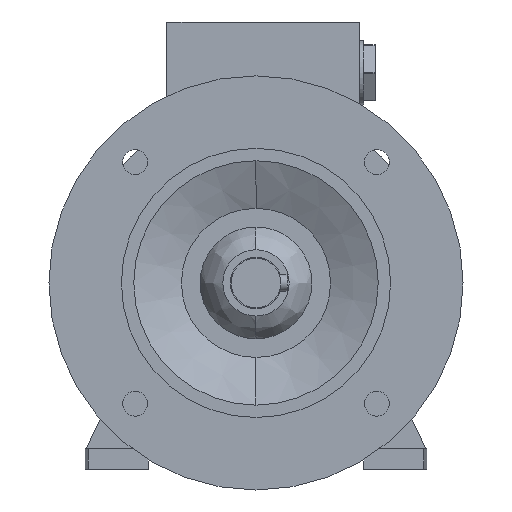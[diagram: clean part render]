
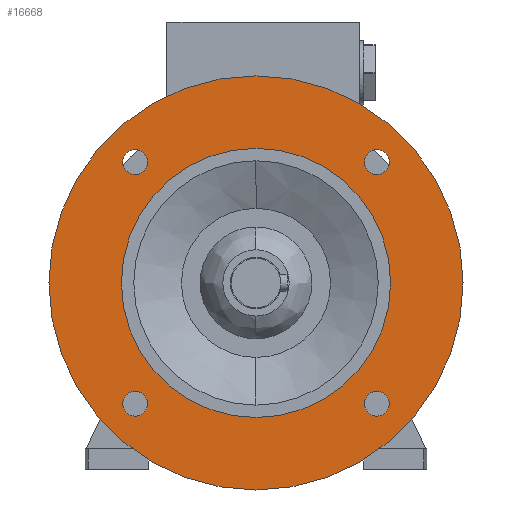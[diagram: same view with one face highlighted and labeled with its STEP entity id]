
A CAD part, left-side view. The second image highlights one B-rep face of the part: STEP entity #16668.
In plain terms, the highlighted planar face has unit normal (-1, 0, 0).
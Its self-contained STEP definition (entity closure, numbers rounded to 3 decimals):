
#398 = EDGE_CURVE ( 'NONE', #19156, #19166, #14001, .T. ) ;
#399 = EDGE_CURVE ( 'NONE', #19159, #19144, #14002, .T. ) ;
#621 = AXIS2_PLACEMENT_3D ( 'NONE', #1017, #1018, #1019 ) ;
#622 = AXIS2_PLACEMENT_3D ( 'NONE', #1021, #1022, #1023 ) ;
#699 = AXIS2_PLACEMENT_3D ( 'NONE', #4910, #4911, #4912 ) ;
#700 = AXIS2_PLACEMENT_3D ( 'NONE', #4916, #4917, #4918 ) ;
#707 = AXIS2_PLACEMENT_3D ( 'NONE', #4951, #4952, #4953 ) ;
#713 = AXIS2_PLACEMENT_3D ( 'NONE', #4982, #4983, #4984 ) ;
#719 = AXIS2_PLACEMENT_3D ( 'NONE', #5015, #5016, #5017 ) ;
#766 = AXIS2_PLACEMENT_3D ( 'NONE', #23514, #23516, #23517 ) ;
#767 = AXIS2_PLACEMENT_3D ( 'NONE', #23525, #23527, #23529 ) ;
#768 = AXIS2_PLACEMENT_3D ( 'NONE', #23533, #23534, #23537 ) ;
#769 = AXIS2_PLACEMENT_3D ( 'NONE', #23562, #23564, #23566 ) ;
#1017 = CARTESIAN_POINT ( 'NONE',  ( -34.5, 58.336, -58.336 ) ) ;
#1018 = DIRECTION ( 'NONE',  ( 1., 0., 0. ) ) ;
#1019 = DIRECTION ( 'NONE',  ( 0., 0., -1. ) ) ;
#1021 = CARTESIAN_POINT ( 'NONE',  ( -34.5, -58.336, -58.336 ) ) ;
#1022 = DIRECTION ( 'NONE',  ( 1., 0., 0. ) ) ;
#1023 = DIRECTION ( 'NONE',  ( 0., 0., -1. ) ) ;
#1077 = EDGE_CURVE ( 'NONE', #19160, #19162, #14518, .T. ) ;
#1079 = EDGE_CURVE ( 'NONE', #19163, #19148, #14520, .T. ) ;
#1093 = EDGE_CURVE ( 'NONE', #19167, #19147, #14541, .T. ) ;
#1105 = EDGE_CURVE ( 'NONE', #19166, #19156, #14561, .T. ) ;
#1119 = EDGE_CURVE ( 'NONE', #19144, #19159, #14580, .T. ) ;
#2842 = CARTESIAN_POINT ( 'NONE',  ( -34.5, -58.336, -52.336 ) ) ;
#2866 = CARTESIAN_POINT ( 'NONE',  ( -34.5, 58.336, 52.336 ) ) ;
#2867 = CARTESIAN_POINT ( 'NONE',  ( -34.5, -58.336, 52.336 ) ) ;
#2868 = CARTESIAN_POINT ( 'NONE',  ( -34.5, 0., 65. ) ) ;
#2874 = CARTESIAN_POINT ( 'NONE',  ( -34.5, 0., -65. ) ) ;
#2875 = CARTESIAN_POINT ( 'NONE',  ( -34.5, 58.336, -64.336 ) ) ;
#2878 = CARTESIAN_POINT ( 'NONE',  ( -34.5, -58.336, -64.336 ) ) ;
#2879 = CARTESIAN_POINT ( 'NONE',  ( -34.5, 0., -100. ) ) ;
#2881 = CARTESIAN_POINT ( 'NONE',  ( -34.5, 0., 100. ) ) ;
#2882 = CARTESIAN_POINT ( 'NONE',  ( -34.5, -58.336, 64.336 ) ) ;
#2885 = CARTESIAN_POINT ( 'NONE',  ( -34.5, 58.336, -52.336 ) ) ;
#2886 = CARTESIAN_POINT ( 'NONE',  ( -34.5, 58.336, 64.336 ) ) ;
#3772 = CIRCLE ( 'NONE', #767, 6. ) ;
#3774 = CIRCLE ( 'NONE', #768, 100. ) ;
#3775 = CIRCLE ( 'NONE', #766, 6. ) ;
#3783 = CIRCLE ( 'NONE', #769, 65. ) ;
#4910 = CARTESIAN_POINT ( 'NONE',  ( -34.5, 0., 0. ) ) ;
#4911 = DIRECTION ( 'NONE',  ( 1., 0., 0. ) ) ;
#4912 = DIRECTION ( 'NONE',  ( 0., 0., 1. ) ) ;
#4916 = CARTESIAN_POINT ( 'NONE',  ( -34.5, -58.336, 58.336 ) ) ;
#4917 = DIRECTION ( 'NONE',  ( 1., 0., 0. ) ) ;
#4918 = DIRECTION ( 'NONE',  ( 0., 0., -1. ) ) ;
#4951 = CARTESIAN_POINT ( 'NONE',  ( -34.5, 58.336, 58.336 ) ) ;
#4952 = DIRECTION ( 'NONE',  ( 1., 0., 0. ) ) ;
#4953 = DIRECTION ( 'NONE',  ( 0., 0., -1. ) ) ;
#4982 = CARTESIAN_POINT ( 'NONE',  ( -34.5, 58.336, -58.336 ) ) ;
#4983 = DIRECTION ( 'NONE',  ( 1., 0., 0. ) ) ;
#4984 = DIRECTION ( 'NONE',  ( 0., 0., -1. ) ) ;
#5015 = CARTESIAN_POINT ( 'NONE',  ( -34.5, -58.336, -58.336 ) ) ;
#5016 = DIRECTION ( 'NONE',  ( 1., 0., 0. ) ) ;
#5017 = DIRECTION ( 'NONE',  ( 0., 0., -1. ) ) ;
#6189 = EDGE_CURVE ( 'NONE', #19147, #19167, #3775, .T. ) ;
#6190 = EDGE_CURVE ( 'NONE', #19148, #19163, #3772, .T. ) ;
#6191 = EDGE_CURVE ( 'NONE', #19162, #19160, #3774, .T. ) ;
#6196 = EDGE_CURVE ( 'NONE', #19149, #19155, #3783, .T. ) ;
#7092 = DIRECTION ( 'NONE',  ( -1., 0., 0. ) ) ;
#7094 = PLANE ( 'NONE',  #16786 ) ;
#7096 = CARTESIAN_POINT ( 'NONE',  ( -34.5, 82.5, 0. ) ) ;
#7097 = DIRECTION ( 'NONE',  ( 0., 0., 1. ) ) ;
#11593 = CIRCLE ( 'NONE', #12271, 65. ) ;
#12271 = AXIS2_PLACEMENT_3D ( 'NONE', #13003, #13004, #13005 ) ;
#13003 = CARTESIAN_POINT ( 'NONE',  ( -34.5, 0., 0. ) ) ;
#13004 = DIRECTION ( 'NONE',  ( 1., 0., 0. ) ) ;
#13005 = DIRECTION ( 'NONE',  ( 0., 0., 1. ) ) ;
#14001 = CIRCLE ( 'NONE', #621, 6. ) ;
#14002 = CIRCLE ( 'NONE', #622, 6. ) ;
#14518 = CIRCLE ( 'NONE', #699, 100. ) ;
#14520 = CIRCLE ( 'NONE', #700, 6. ) ;
#14541 = CIRCLE ( 'NONE', #707, 6. ) ;
#14561 = CIRCLE ( 'NONE', #713, 6. ) ;
#14580 = CIRCLE ( 'NONE', #719, 6. ) ;
#14944 = EDGE_CURVE ( 'NONE', #19155, #19149, #11593, .T. ) ;
#16668 = ADVANCED_FACE ( 'NONE', ( #20628, #20641, #20633, #20638, #20639, #20642 ), #7094, .T. ) ;
#16786 = AXIS2_PLACEMENT_3D ( 'NONE', #7096, #7092, #7097 ) ;
#19144 = VERTEX_POINT ( 'NONE', #2842 ) ;
#19147 = VERTEX_POINT ( 'NONE', #2866 ) ;
#19148 = VERTEX_POINT ( 'NONE', #2867 ) ;
#19149 = VERTEX_POINT ( 'NONE', #2868 ) ;
#19155 = VERTEX_POINT ( 'NONE', #2874 ) ;
#19156 = VERTEX_POINT ( 'NONE', #2875 ) ;
#19159 = VERTEX_POINT ( 'NONE', #2878 ) ;
#19160 = VERTEX_POINT ( 'NONE', #2879 ) ;
#19162 = VERTEX_POINT ( 'NONE', #2881 ) ;
#19163 = VERTEX_POINT ( 'NONE', #2882 ) ;
#19166 = VERTEX_POINT ( 'NONE', #2885 ) ;
#19167 = VERTEX_POINT ( 'NONE', #2886 ) ;
#20628 = FACE_BOUND ( 'NONE', #25117, .T. ) ;
#20633 = FACE_BOUND ( 'NONE', #25103, .T. ) ;
#20638 = FACE_BOUND ( 'NONE', #25123, .T. ) ;
#20639 = FACE_BOUND ( 'NONE', #25112, .T. ) ;
#20641 = FACE_OUTER_BOUND ( 'NONE', #25109, .T. ) ;
#20642 = FACE_BOUND ( 'NONE', #25108, .T. ) ;
#23514 = CARTESIAN_POINT ( 'NONE',  ( -34.5, 58.336, 58.336 ) ) ;
#23516 = DIRECTION ( 'NONE',  ( 1., 0., 0. ) ) ;
#23517 = DIRECTION ( 'NONE',  ( 0., 0., -1. ) ) ;
#23525 = CARTESIAN_POINT ( 'NONE',  ( -34.5, -58.336, 58.336 ) ) ;
#23527 = DIRECTION ( 'NONE',  ( 1., 0., 0. ) ) ;
#23529 = DIRECTION ( 'NONE',  ( 0., 0., -1. ) ) ;
#23533 = CARTESIAN_POINT ( 'NONE',  ( -34.5, 0., 0. ) ) ;
#23534 = DIRECTION ( 'NONE',  ( 1., 0., 0. ) ) ;
#23537 = DIRECTION ( 'NONE',  ( 0., 0., 1. ) ) ;
#23562 = CARTESIAN_POINT ( 'NONE',  ( -34.5, 0., 0. ) ) ;
#23564 = DIRECTION ( 'NONE',  ( 1., 0., 0. ) ) ;
#23566 = DIRECTION ( 'NONE',  ( 0., 0., 1. ) ) ;
#24955 = ORIENTED_EDGE ( 'NONE', *, *, #14944, .T. ) ;
#24956 = ORIENTED_EDGE ( 'NONE', *, *, #6191, .F. ) ;
#24957 = ORIENTED_EDGE ( 'NONE', *, *, #1077, .F. ) ;
#24958 = ORIENTED_EDGE ( 'NONE', *, *, #6190, .T. ) ;
#24959 = ORIENTED_EDGE ( 'NONE', *, *, #1079, .T. ) ;
#24960 = ORIENTED_EDGE ( 'NONE', *, *, #6189, .T. ) ;
#24961 = ORIENTED_EDGE ( 'NONE', *, *, #1093, .T. ) ;
#24962 = ORIENTED_EDGE ( 'NONE', *, *, #398, .T. ) ;
#24963 = ORIENTED_EDGE ( 'NONE', *, *, #1105, .T. ) ;
#24964 = ORIENTED_EDGE ( 'NONE', *, *, #399, .T. ) ;
#24965 = ORIENTED_EDGE ( 'NONE', *, *, #1119, .T. ) ;
#25103 = EDGE_LOOP ( 'NONE', ( #24958, #24959 ) ) ;
#25108 = EDGE_LOOP ( 'NONE', ( #24964, #24965 ) ) ;
#25109 = EDGE_LOOP ( 'NONE', ( #24956, #24957 ) ) ;
#25112 = EDGE_LOOP ( 'NONE', ( #24962, #24963 ) ) ;
#25117 = EDGE_LOOP ( 'NONE', ( #25275, #24955 ) ) ;
#25123 = EDGE_LOOP ( 'NONE', ( #24960, #24961 ) ) ;
#25275 = ORIENTED_EDGE ( 'NONE', *, *, #6196, .T. ) ;
